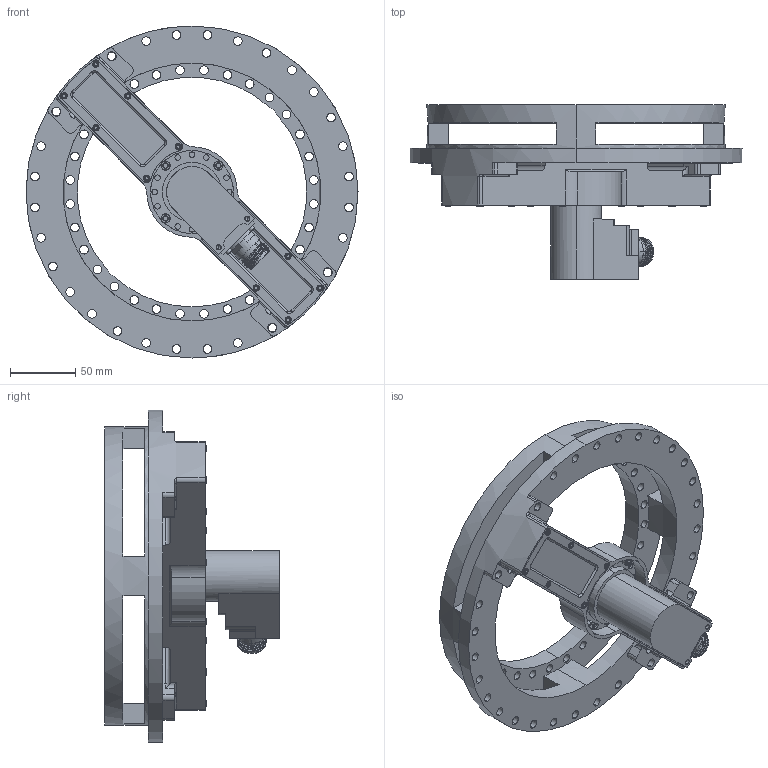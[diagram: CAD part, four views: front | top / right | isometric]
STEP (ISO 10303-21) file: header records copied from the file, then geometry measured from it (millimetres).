
FILE_DESCRIPTION (( 'STEP AP203' ), '1' );
FILE_NAME ('1008036.STEP', '2017-06-30T12:40:19', ( '' ), ( '' ), 'SwSTEP 2.0', 'SolidWorks 2014', '' );
FILE_SCHEMA (( 'CONFIG_CONTROL_DESIGN' ));
Length unit declared in the file: inch
Products named in the file (1): 1008036
Bounding box: 254 x 133.53 x 254 mm (x, y, z)
Volume: 983307.8 mm3; surface area: 197098.4 mm2
Topology: 1 solids, 1 shells, 1704 faces, 4343 edges, 2762 vertices
Faces by surface type: plane 949, cylinder 444, cone 279, bspline 32
Entity records: 57081 total; most frequent: CARTESIAN_POINT 16337, ORIENTED_EDGE 8662, DIRECTION 8064, EDGE_CURVE 4331, AXIS2_PLACEMENT_3D 2869, VERTEX_POINT 2762, VECTOR 2326, LINE 2326
